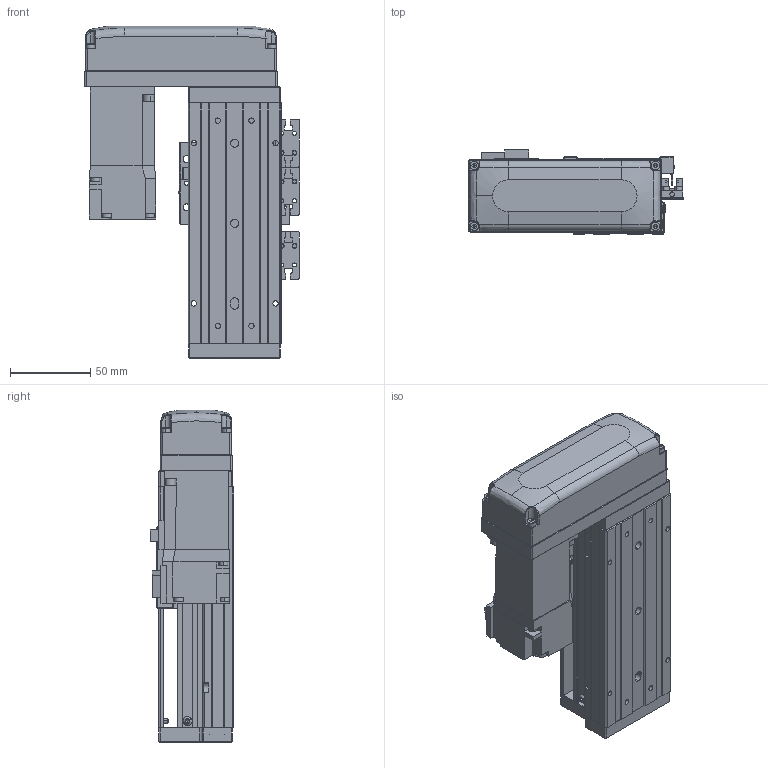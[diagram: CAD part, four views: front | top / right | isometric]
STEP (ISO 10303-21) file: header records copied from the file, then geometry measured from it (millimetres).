
FILE_DESCRIPTION (( 'STEP AP203' ), '1' );
FILE_NAME ('KTHA50-50-BR-M10-C4L.step', '2022-03-19T07:15:46', ( '微软用户' ), ( '微软中国' ), 'SwSTEP 2.0', 'SolidWorks 2020', '' );
FILE_SCHEMA (( 'CONFIG_CONTROL_DESIGN' ));
Length unit declared in the file: millimetre
Products named in the file (18): CTHA60-017; KTHA50-005; CTHA60-033; GBT 70.1-M4×12; GBT 70.1-M3×15; CTHA60-016; KTHA50-50-BR-M10-C4L; GB¨uT 70.2-M3¡Á6_M3¡Á6; CTHA60-021; EE_SX911P_R; KTHA50-001_150; GBT 70.3-M3℅6; GBT77-2000 M3×3; KTHA50-002; HG-KR13（三菱）; GBT 70.1-M3℅6; KTHA50-004; CTHA50-015-2_CTHA60-015-2
Assembly tree (53 placements, depth 2):
  KTHA50-50-BR-M10-C4L
    KTHA50-001_150
    KTHA50-002
    KTHA50-004
    KTHA50-005
    GB¨uT 70.2-M3¡Á6_M3¡Á6  x6
    EE_SX911P_R  x3
    GBT77-2000 M3×3  x6
    GBT 70.1-M3℅6  x6
    CTHA60-017  x3
    GBT 70.1-M4×12  x10
    CTHA60-016  x2
    CTHA60-021  x2
    GBT 70.3-M3℅6  x4
    HG-KR13（三菱）
    CTHA50-015-2_CTHA60-015-2
    CTHA60-033
    GBT 70.1-M3×15  x4
Bounding box: 133.82 x 52.3 x 207 mm (x, y, z)
Volume: 633899.9 mm3; surface area: 157450.5 mm2
Topology: 56 solids, 56 shells, 2183 faces, 5127 edges, 3136 vertices
Faces by surface type: plane 1216, cylinder 526, cone 299, torus 100, bspline 26, sphere 16
Entity records: 35651 total; most frequent: CARTESIAN_POINT 6786, DIRECTION 5525, ORIENTED_EDGE 5266, EDGE_CURVE 2633, AXIS2_PLACEMENT_3D 1891, VECTOR 1743, LINE 1743, VERTEX_POINT 1650
